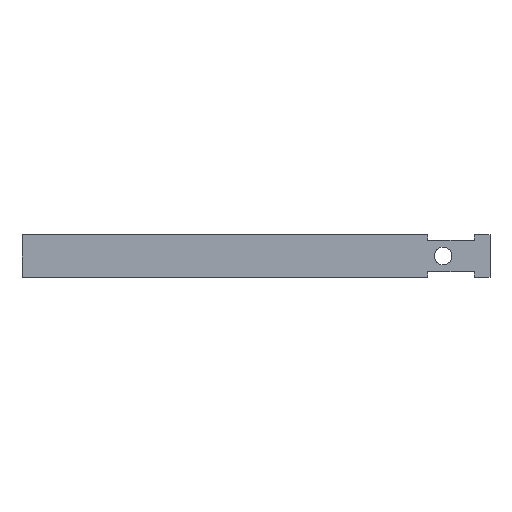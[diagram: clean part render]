
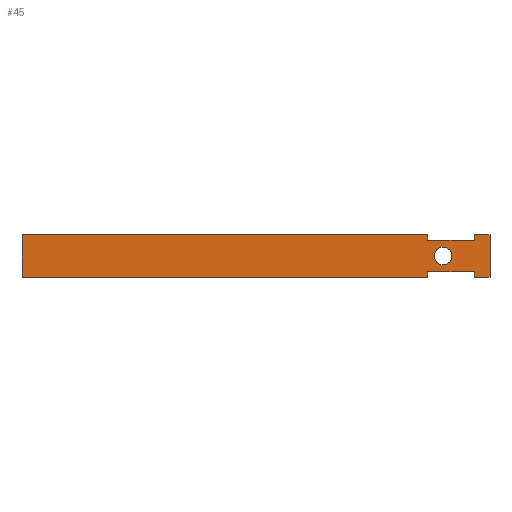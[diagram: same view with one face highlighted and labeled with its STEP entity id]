
A CAD part, top view. The second image highlights one B-rep face of the part: STEP entity #45.
In plain terms, the highlighted planar face has unit normal (0, 0, 1).
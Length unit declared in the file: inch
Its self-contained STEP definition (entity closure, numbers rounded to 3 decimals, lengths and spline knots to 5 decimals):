
#45=ADVANCED_FACE('',(#100,#101),#102,.T.);
#100=FACE_BOUND('',#164,.T.);
#101=FACE_OUTER_BOUND('',#165,.T.);
#102=PLANE('',#166);
#164=EDGE_LOOP('',(#255,#256,#257,#258));
#165=EDGE_LOOP('',(#259,#260,#261,#262,#263,#264,#265,#266,#267,#268,#269,#270));
#166=AXIS2_PLACEMENT_3D('',#271,#272,#273);
#255=ORIENTED_EDGE('',*,*,#409,.F.);
#256=ORIENTED_EDGE('',*,*,#410,.F.);
#257=ORIENTED_EDGE('',*,*,#411,.F.);
#258=ORIENTED_EDGE('',*,*,#412,.F.);
#259=ORIENTED_EDGE('',*,*,#413,.T.);
#260=ORIENTED_EDGE('',*,*,#414,.F.);
#261=ORIENTED_EDGE('',*,*,#415,.F.);
#262=ORIENTED_EDGE('',*,*,#416,.F.);
#263=ORIENTED_EDGE('',*,*,#417,.F.);
#264=ORIENTED_EDGE('',*,*,#418,.F.);
#265=ORIENTED_EDGE('',*,*,#419,.F.);
#266=ORIENTED_EDGE('',*,*,#404,.F.);
#267=ORIENTED_EDGE('',*,*,#420,.F.);
#268=ORIENTED_EDGE('',*,*,#421,.F.);
#269=ORIENTED_EDGE('',*,*,#422,.F.);
#270=ORIENTED_EDGE('',*,*,#423,.F.);
#271=CARTESIAN_POINT('',(-3.0,0.68751,0.105));
#272=DIRECTION('',(0.0,-0.0,1.0));
#273=DIRECTION('',(0.0,1.0,0.0));
#404=EDGE_CURVE('',#471,#472,#473,.T.);
#409=EDGE_CURVE('',#480,#481,#482,.T.);
#410=EDGE_CURVE('',#483,#480,#484,.T.);
#411=EDGE_CURVE('',#485,#483,#486,.T.);
#412=EDGE_CURVE('',#481,#485,#487,.T.);
#413=EDGE_CURVE('',#488,#489,#490,.T.);
#414=EDGE_CURVE('',#491,#489,#492,.T.);
#415=EDGE_CURVE('',#493,#491,#494,.T.);
#416=EDGE_CURVE('',#495,#493,#496,.T.);
#417=EDGE_CURVE('',#497,#495,#498,.T.);
#418=EDGE_CURVE('',#499,#497,#500,.T.);
#419=EDGE_CURVE('',#472,#499,#501,.T.);
#420=EDGE_CURVE('',#502,#471,#503,.T.);
#421=EDGE_CURVE('',#504,#502,#505,.T.);
#422=EDGE_CURVE('',#506,#504,#507,.T.);
#423=EDGE_CURVE('',#488,#506,#508,.T.);
#471=VERTEX_POINT('',#570);
#472=VERTEX_POINT('',#571);
#473=LINE('',#572,#573);
#480=VERTEX_POINT('',#583);
#481=VERTEX_POINT('',#584);
#482=B_SPLINE_CURVE_WITH_KNOTS('',3,(#585,#586,#587,#588),.UNSPECIFIED.,.F.,.F.,(4,4),(-1.0,-0.0),.UNSPECIFIED.);
#483=VERTEX_POINT('',#589);
#484=B_SPLINE_CURVE_WITH_KNOTS('',3,(#590,#591,#592,#593),.UNSPECIFIED.,.F.,.F.,(4,4),(-1.0,-0.0),.UNSPECIFIED.);
#485=VERTEX_POINT('',#594);
#486=B_SPLINE_CURVE_WITH_KNOTS('',3,(#595,#596,#597,#598),.UNSPECIFIED.,.F.,.F.,(4,4),(-1.0,-0.0),.UNSPECIFIED.);
#487=B_SPLINE_CURVE_WITH_KNOTS('',3,(#599,#600,#601,#602),.UNSPECIFIED.,.F.,.F.,(4,4),(-1.0,-0.0),.UNSPECIFIED.);
#488=VERTEX_POINT('',#603);
#489=VERTEX_POINT('',#604);
#490=LINE('',#605,#606);
#491=VERTEX_POINT('',#607);
#492=LINE('',#608,#609);
#493=VERTEX_POINT('',#610);
#494=LINE('',#611,#612);
#495=VERTEX_POINT('',#613);
#496=LINE('',#614,#615);
#497=VERTEX_POINT('',#616);
#498=LINE('',#617,#618);
#499=VERTEX_POINT('',#619);
#500=LINE('',#620,#621);
#501=LINE('',#622,#623);
#502=VERTEX_POINT('',#624);
#503=LINE('',#625,#626);
#504=VERTEX_POINT('',#627);
#505=LINE('',#628,#629);
#506=VERTEX_POINT('',#630);
#507=LINE('',#631,#632);
#508=LINE('',#633,#634);
#570=CARTESIAN_POINT('',(8.5,1.37501,0.105));
#571=CARTESIAN_POINT('',(9.,1.37501,0.105));
#572=CARTESIAN_POINT('',(8.5,1.37501,0.105));
#573=VECTOR('',#732,1.0);
#583=CARTESIAN_POINT('',(7.49988,0.96876,0.105));
#584=CARTESIAN_POINT('',(7.21863,0.68751,0.105));
#585=CARTESIAN_POINT('',(7.49988,0.96876,0.105));
#586=CARTESIAN_POINT('',(7.34455,0.96876,0.105));
#587=CARTESIAN_POINT('',(7.21863,0.84284,0.105));
#588=CARTESIAN_POINT('',(7.21863,0.68751,0.105));
#589=CARTESIAN_POINT('',(7.78113,0.68751,0.105));
#590=CARTESIAN_POINT('',(7.78113,0.68751,0.105));
#591=CARTESIAN_POINT('',(7.78113,0.84284,0.105));
#592=CARTESIAN_POINT('',(7.65521,0.96876,0.105));
#593=CARTESIAN_POINT('',(7.49988,0.96876,0.105));
#594=CARTESIAN_POINT('',(7.49988,0.40626,0.105));
#595=CARTESIAN_POINT('',(7.49988,0.40626,0.105));
#596=CARTESIAN_POINT('',(7.65521,0.40626,0.105));
#597=CARTESIAN_POINT('',(7.78113,0.53219,0.105));
#598=CARTESIAN_POINT('',(7.78113,0.68751,0.105));
#599=CARTESIAN_POINT('',(7.21863,0.68751,0.105));
#600=CARTESIAN_POINT('',(7.21863,0.53219,0.105));
#601=CARTESIAN_POINT('',(7.34455,0.40626,0.105));
#602=CARTESIAN_POINT('',(7.49988,0.40626,0.105));
#603=CARTESIAN_POINT('',(-6.0,1.37501,0.105));
#604=CARTESIAN_POINT('',(-6.0,0.0,0.105));
#605=CARTESIAN_POINT('',(-6.0,0.0,0.105));
#606=VECTOR('',#736,1.0);
#607=CARTESIAN_POINT('',(6.99988,0.0,0.105));
#608=CARTESIAN_POINT('',(-3.0,0.0,0.105));
#609=VECTOR('',#737,1.0);
#610=CARTESIAN_POINT('',(7.00003,0.1875,0.105));
#611=CARTESIAN_POINT('',(7.00003,0.1875,0.105));
#612=VECTOR('',#738,1.0);
#613=CARTESIAN_POINT('',(8.50003,0.1875,0.105));
#614=CARTESIAN_POINT('',(8.50003,0.1875,0.105));
#615=VECTOR('',#739,1.0);
#616=CARTESIAN_POINT('',(8.5,0.0,0.105));
#617=CARTESIAN_POINT('',(8.5,0.0,0.105));
#618=VECTOR('',#740,1.0);
#619=CARTESIAN_POINT('',(9.,0.0,0.105));
#620=CARTESIAN_POINT('',(9.,0.0,0.105));
#621=VECTOR('',#741,1.0);
#622=CARTESIAN_POINT('',(9.,1.37501,0.105));
#623=VECTOR('',#742,1.0);
#624=CARTESIAN_POINT('',(8.50003,1.18751,0.105));
#625=CARTESIAN_POINT('',(8.50003,1.18751,0.105));
#626=VECTOR('',#743,1.0);
#627=CARTESIAN_POINT('',(7.00003,1.18751,0.105));
#628=CARTESIAN_POINT('',(7.00003,1.18751,0.105));
#629=VECTOR('',#744,1.0);
#630=CARTESIAN_POINT('',(6.99988,1.37501,0.105));
#631=CARTESIAN_POINT('',(6.99988,1.37501,0.105));
#632=VECTOR('',#745,1.0);
#633=CARTESIAN_POINT('',(0.0,1.37501,0.105));
#634=VECTOR('',#746,1.0);
#732=DIRECTION('',(1.0,0.0,0.0));
#736=DIRECTION('',(-0.0,-1.0,-0.0));
#737=DIRECTION('',(-1.0,0.0,0.0));
#738=DIRECTION('',(-0.001,-1.,0.0));
#739=DIRECTION('',(-1.0,0.0,0.0));
#740=DIRECTION('',(0.,1.,0.0));
#741=DIRECTION('',(-1.0,0.0,0.0));
#742=DIRECTION('',(0.0,-1.0,0.0));
#743=DIRECTION('',(0.,1.,0.0));
#744=DIRECTION('',(1.0,0.0,0.0));
#745=DIRECTION('',(0.001,-1.,0.0));
#746=DIRECTION('',(1.0,0.0,0.0));
